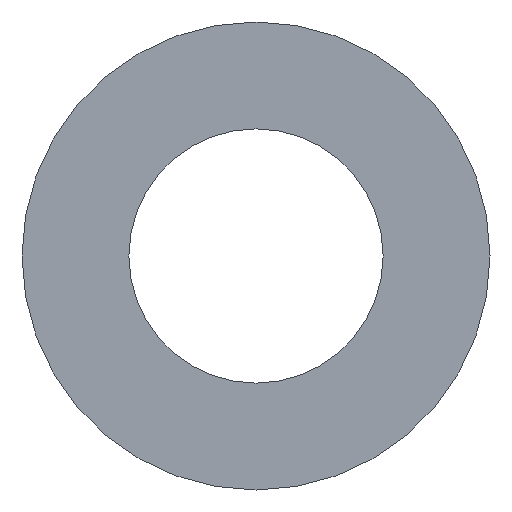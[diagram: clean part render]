
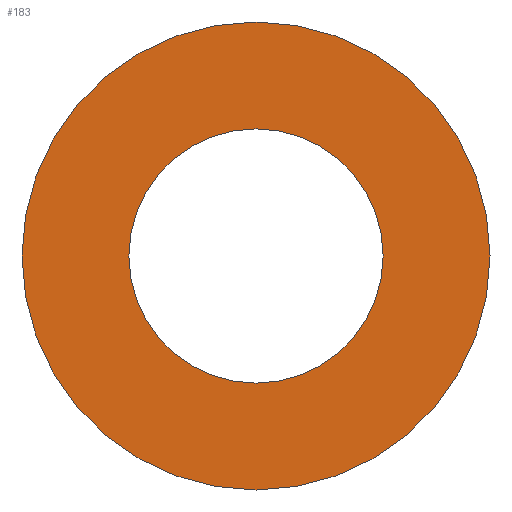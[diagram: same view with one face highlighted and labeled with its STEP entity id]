
A CAD part, left-side view. The second image highlights one B-rep face of the part: STEP entity #183.
In plain terms, the highlighted planar face has unit normal (-1, 0, 0).
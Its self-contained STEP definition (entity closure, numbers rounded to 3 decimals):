
#33=CARTESIAN_POINT('',(0.,51.,0.));
#34=VERTEX_POINT('',#33);
#41=CARTESIAN_POINT('',(0.,0.,0.));
#42=DIRECTION('',(1.,0.,0.));
#43=DIRECTION('',(0.,1.,0.));
#44=AXIS2_PLACEMENT_3D('',#41,#42,#43);
#45=CIRCLE('',#44,51.);
#46=EDGE_CURVE('',#34,#34,#45,.T.);
#148=CARTESIAN_POINT('',(0.,27.7,0.));
#149=VERTEX_POINT('',#148);
#156=CARTESIAN_POINT('',(0.,0.,0.));
#157=DIRECTION('',(1.,0.,0.));
#158=DIRECTION('',(0.,1.,0.));
#159=AXIS2_PLACEMENT_3D('',#156,#157,#158);
#160=CIRCLE('',#159,27.7);
#161=EDGE_CURVE('',#149,#149,#160,.T.);
#172=ORIENTED_EDGE('',*,*,#46,.F.);
#173=EDGE_LOOP('',(#172));
#174=FACE_OUTER_BOUND('',#173,.T.);
#175=ORIENTED_EDGE('',*,*,#161,.T.);
#176=EDGE_LOOP('',(#175));
#177=FACE_BOUND('',#176,.T.);
#178=CARTESIAN_POINT('',(0.,39.35,0.));
#179=DIRECTION('',(-1.,0.,0.));
#180=DIRECTION('',(0.,-1.,0.));
#181=AXIS2_PLACEMENT_3D('',#178,#179,#180);
#182=PLANE('',#181);
#183=ADVANCED_FACE('',(#174,#177),#182,.T.);
